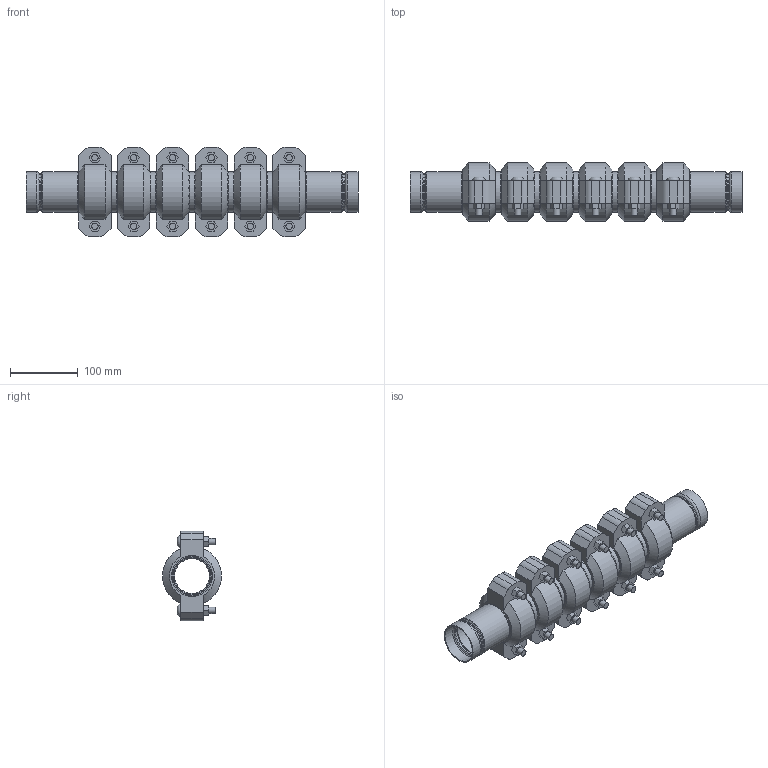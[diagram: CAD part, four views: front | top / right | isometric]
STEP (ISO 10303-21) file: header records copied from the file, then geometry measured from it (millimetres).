
FILE_DESCRIPTION(/* description */ ('VIC STRENGTHIN 100 EXPANSION JOINT 6 COUPLINGS COMPRESSED STYLE E155 (ST1)','CAx-IF Rec.Pracs.---Representation and Presentation of Product Manufacturing Information (PMI)---4.0---2014-10-13'),/* implementation_level */ '2;1');
FILE_NAME(/* name */ 'C:\Users\Vjadhav\AppData\Roaming\Autodesk\ApplicationPlugins\Victaulic.Temp\A634\Victaulic_SS-StrengThin 100_Expansion Joint_Compressed_6 Couplings_Style E155 (ST1)_2 (50).stp',/* time_stamp */ '2021-07-23T12:33:36+05:00',/* author */ ('kkamble'),/* organization */ ('Victaulic'),/* preprocessor_version */ 'ST-DEVELOPER v17.2',/* originating_system */ 'Autodesk Inventor 2019',/* authorisation */ '');
FILE_SCHEMA (('AP242_MANAGED_MODEL_BASED_3D_ENGINEERING_MIM_LF { 1 0 10303 442 1 1 4 }'));
Length unit declared in the file: inch
Products named in the file (4): E155-02.0; E494G-02.0; Nipple-02.0; 075-02.0
Assembly tree (13 placements, depth 2):
  E155-02.0
    E494G-02.0  x2
    Nipple-02.0  x5
    075-02.0  x6
Bounding box: 490.47 x 87.12 x 132.59 mm (x, y, z)
Volume: 1435100.9 mm3; surface area: 424113 mm2
Topology: 13 solids, 25 shells, 446 faces, 1134 edges, 802 vertices
Faces by surface type: plane 246, cylinder 128, torus 32, cone 28, bspline 12
Full cylindrical faces by diameter (mm): 9.525 x24, 11.43 x12, 51.13 x2, 52.502 x5, 53.95 x2, 54.331 x2, 57.125 x6, 57.15 x12, 60.325 x27
Entity records: 3663 total; most frequent: DIRECTION 651, CARTESIAN_POINT 645, ORIENTED_EDGE 536, AXIS2_PLACEMENT_3D 277, EDGE_CURVE 268, VERTEX_POINT 193, CIRCLE 163, EDGE_LOOP 123
